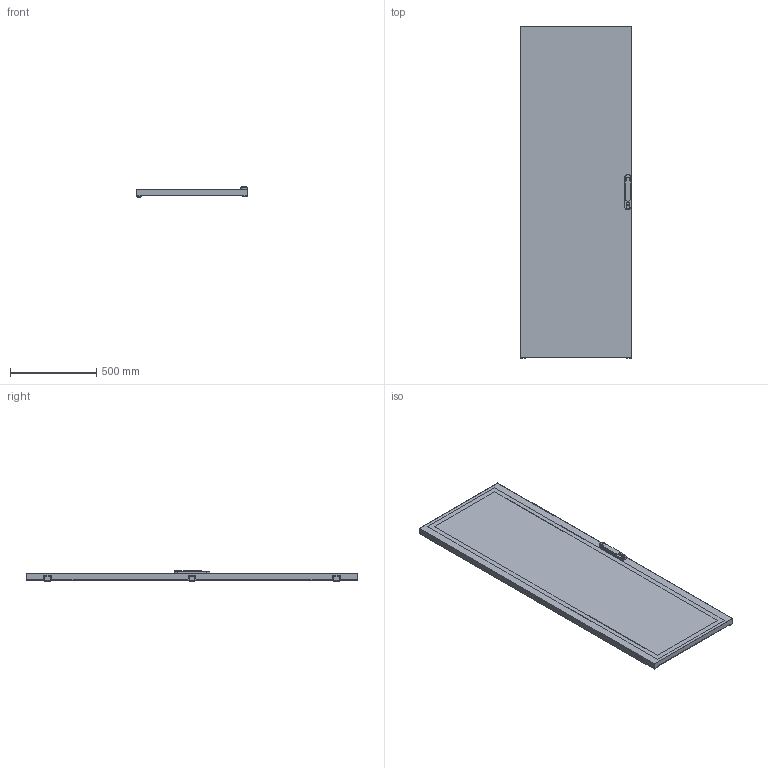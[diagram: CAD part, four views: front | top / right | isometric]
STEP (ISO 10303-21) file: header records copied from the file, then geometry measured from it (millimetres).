
FILE_DESCRIPTION((''),'2;1');
FILE_NAME('1618554680040_ASM','2021-04-16T12:01:36',('SESA176331'),('Schneider-Electric'),'CREO PARAMETRIC BY PTC INC, 2019164','CREO PARAMETRIC BY PTC INC, 2019164','');
FILE_SCHEMA(('AP242_MANAGED_MODEL_BASED_3D_ENGINEERING_MIM_LF { 1 0 10303 442 1 1 4 }'));
Length unit declared in the file: millimetre
Products named in the file (9): EMPTYNODE_1618554680100_ASM; 01224-3D_AAV8174001; 01224-3D_AAV55686; 01224-3D_469703800; GDE7745301_PRT_1; 01224-3D_ASM; SETG-HANDLE-SYSTEMP-3D_LVS08122; SETG-HANDLE-SYSTEMP-3D_ASM; 1618554680040_ASM
Assembly tree (10 placements, depth 3):
  1618554680040_ASM
    EMPTYNODE_1618554680100_ASM
    01224-3D_ASM
      01224-3D_AAV8174001
      01224-3D_AAV55686  x3
      01224-3D_469703800
      GDE7745301_PRT_1
    SETG-HANDLE-SYSTEMP-3D_ASM
      SETG-HANDLE-SYSTEMP-3D_LVS08122
Bounding box: 644 x 1925 x 59.97 mm (x, y, z)
Volume: 3428523.6 mm3; surface area: 4313740.3 mm2
Topology: 7 solids, 8 shells, 436 faces, 1150 edges, 776 vertices
Faces by surface type: plane 346, cylinder 74, extrusion 16
Entity records: 16303 total; most frequent: CARTESIAN_POINT 2619, ORIENTED_EDGE 1786, DIRECTION 1738, PRESENTATION_STYLE_ASSIGNMENT 989, STYLED_ITEM 919, CURVE_STYLE 912, EDGE_CURVE 893, VECTOR 754
